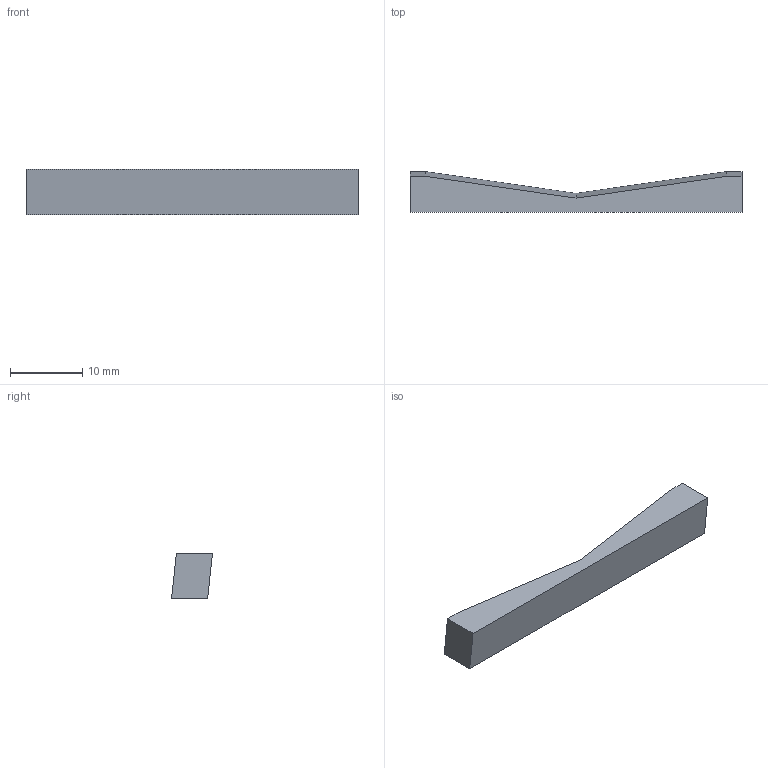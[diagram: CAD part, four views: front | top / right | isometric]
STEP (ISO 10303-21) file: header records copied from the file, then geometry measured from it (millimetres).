
FILE_DESCRIPTION(('Open CASCADE Model'),'2;1');
FILE_NAME('Open CASCADE Shape Model','2026-10-15T18:58:36',('Author'),( 'Open CASCADE'),'Open CASCADE STEP processor 7.9','Open CASCADE 7.9' ,'Unknown');
FILE_SCHEMA(('AUTOMOTIVE_DESIGN { 1 0 10303 214 1 1 1 1 }'));
Length unit declared in the file: millimetre
Products named in the file (1): Open CASCADE STEP translator 7.9 19
Bounding box: 46 x 5.67 x 6.33 mm (x, y, z)
Volume: 1057 mm3; surface area: 985.7 mm2
Topology: 1 solids, 1 shells, 9 faces, 21 edges, 14 vertices
Faces by surface type: plane 9
Entity records: 538 total; most frequent: CARTESIAN_POINT 87, DIRECTION 83, LINE 63, VECTOR 63, ORIENTED_EDGE 42, PCURVE 42, DEFINITIONAL_REPRESENTATION 42, EDGE_CURVE 21
